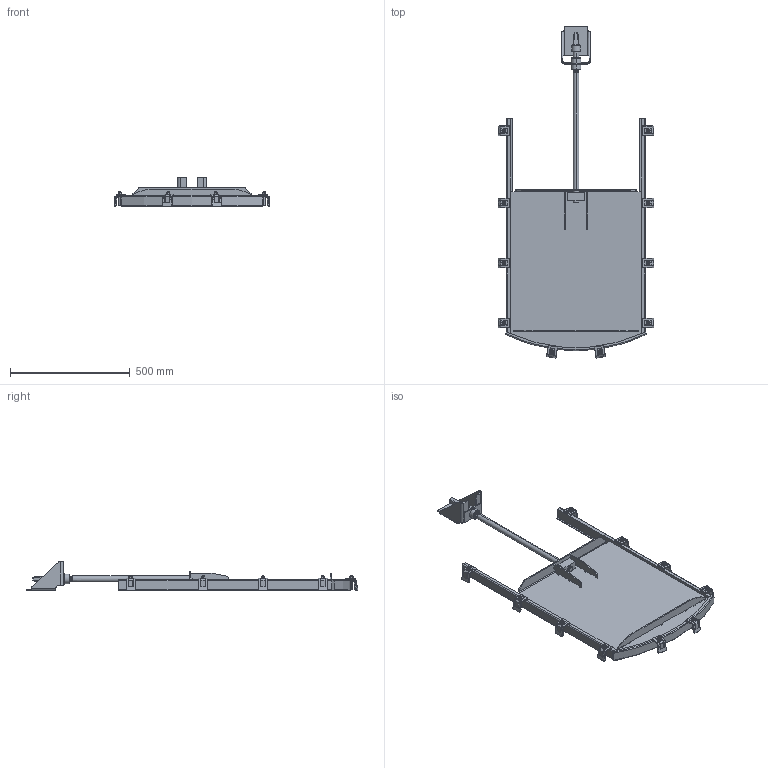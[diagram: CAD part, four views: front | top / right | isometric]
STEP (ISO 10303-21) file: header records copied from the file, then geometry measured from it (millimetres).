
FILE_DESCRIPTION (( 'STEP AP214' ), '1' );
FILE_NAME ('LW 500 gerad klemmen.STEP', '2022-05-19T05:47:12', ( '' ), ( '' ), 'SwSTEP 2.0', 'SolidWorks 2021', '' );
FILE_SCHEMA (( 'AUTOMOTIVE_DESIGN' ));
Length unit declared in the file: millimetre
Products named in the file (1): LW 500 gerad klemmen
Bounding box: 649.57 x 1385.96 x 121 mm (x, y, z)
Volume: 4893142 mm3; surface area: 1468737.9 mm2
Topology: 1 solids, 1 shells, 1576 faces, 3704 edges, 2064 vertices
Faces by surface type: cylinder 617, plane 445, cone 146, sphere 138, torus 128, bspline 102
Entity records: 65933 total; most frequent: CARTESIAN_POINT 13963, DIRECTION 7521, ORIENTED_EDGE 7120, EDGE_CURVE 3560, AXIS2_PLACEMENT_3D 2998, VERTEX_POINT 2044, EDGE_LOOP 1670, UNCERTAINTY_MEASURE_WITH_UNIT 1579
